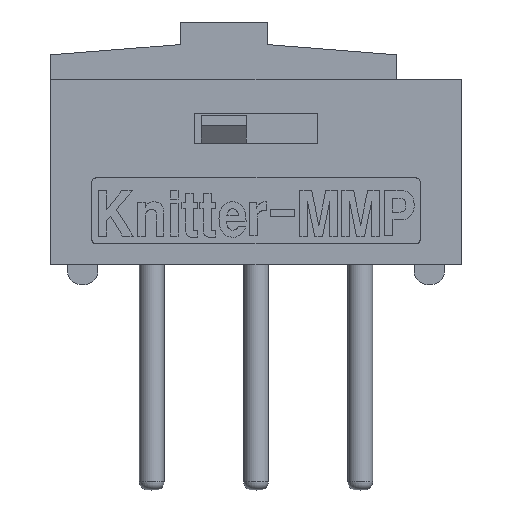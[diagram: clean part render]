
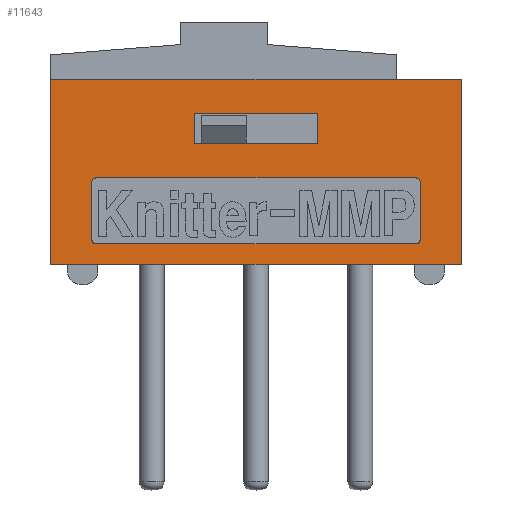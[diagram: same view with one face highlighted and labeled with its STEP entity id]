
A CAD part, top view. The second image highlights one B-rep face of the part: STEP entity #11643.
In plain terms, the highlighted planar face has unit normal (0, 0, 1).
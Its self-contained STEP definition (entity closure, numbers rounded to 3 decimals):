
#110 = VERTEX_POINT ( 'NONE', #12328 ) ;
#286 = CARTESIAN_POINT ( 'NONE',  ( -1.5, 3.68, 1.25 ) ) ;
#443 = AXIS2_PLACEMENT_3D ( 'NONE', #8222, #2272, #9208 ) ;
#454 = DIRECTION ( 'NONE',  ( 1., 0., 0. ) ) ;
#462 = LINE ( 'NONE', #12408, #8075 ) ;
#630 = CARTESIAN_POINT ( 'NONE',  ( -1.5, 2.93, 1.25 ) ) ;
#826 = VECTOR ( 'NONE', #1278, 1000. ) ;
#910 = LINE ( 'NONE', #5317, #5273 ) ;
#943 = CARTESIAN_POINT ( 'NONE',  ( -5., 4.5, 1.25 ) ) ;
#1054 = CARTESIAN_POINT ( 'NONE',  ( -5., 4.5, 1.25 ) ) ;
#1198 = EDGE_CURVE ( 'NONE', #11555, #3470, #7189, .T. ) ;
#1245 = CIRCLE ( 'NONE', #11269, 0.1 ) ;
#1278 = DIRECTION ( 'NONE',  ( -1., 0., 0. ) ) ;
#1325 = VECTOR ( 'NONE', #11014, 1000. ) ;
#1406 = CIRCLE ( 'NONE', #443, 0.1 ) ;
#1530 = ORIENTED_EDGE ( 'NONE', *, *, #5823, .T. ) ;
#1593 = ORIENTED_EDGE ( 'NONE', *, *, #11334, .T. ) ;
#1621 = VERTEX_POINT ( 'NONE', #6834 ) ;
#1716 = ORIENTED_EDGE ( 'NONE', *, *, #9890, .T. ) ;
#1921 = EDGE_CURVE ( 'NONE', #6047, #5854, #3950, .T. ) ;
#1954 = DIRECTION ( 'NONE',  ( 0., -1., 0. ) ) ;
#2049 = DIRECTION ( 'NONE',  ( -1., 0., 0. ) ) ;
#2101 = DIRECTION ( 'NONE',  ( 0., -1., 0. ) ) ;
#2272 = DIRECTION ( 'NONE',  ( 0., 0., -1. ) ) ;
#2291 = CARTESIAN_POINT ( 'NONE',  ( -1.5, 2.93, 1.25 ) ) ;
#2324 = VECTOR ( 'NONE', #7871, 1000. ) ;
#2461 = CARTESIAN_POINT ( 'NONE',  ( -4., 0., 1.25 ) ) ;
#2933 = CARTESIAN_POINT ( 'NONE',  ( 4., 0.6, 1.25 ) ) ;
#3046 = CARTESIAN_POINT ( 'NONE',  ( 5., 4.5, 1.25 ) ) ;
#3079 = CARTESIAN_POINT ( 'NONE',  ( 5., 4.5, 1.25 ) ) ;
#3143 = EDGE_CURVE ( 'NONE', #1621, #5856, #1245, .T. ) ;
#3148 = CARTESIAN_POINT ( 'NONE',  ( -5., 0., 1.25 ) ) ;
#3167 = CARTESIAN_POINT ( 'NONE',  ( 3.9, 2., 1.25 ) ) ;
#3218 = CARTESIAN_POINT ( 'NONE',  ( 3.9, 0.5, 1.25 ) ) ;
#3470 = VERTEX_POINT ( 'NONE', #2933 ) ;
#3499 = VECTOR ( 'NONE', #9403, 1000. ) ;
#3619 = ORIENTED_EDGE ( 'NONE', *, *, #10004, .T. ) ;
#3881 = ORIENTED_EDGE ( 'NONE', *, *, #8595, .T. ) ;
#3891 = CARTESIAN_POINT ( 'NONE',  ( -5., 4.5, 1.25 ) ) ;
#3930 = CARTESIAN_POINT ( 'NONE',  ( -4.25, -0.15, 1.25 ) ) ;
#3950 = LINE ( 'NONE', #630, #8606 ) ;
#3962 = VERTEX_POINT ( 'NONE', #3218 ) ;
#4129 = DIRECTION ( 'NONE',  ( 0., 0., -1. ) ) ;
#4157 = DIRECTION ( 'NONE',  ( 1., 0., 0. ) ) ;
#4356 = DIRECTION ( 'NONE',  ( 0., 0., -1. ) ) ;
#4401 = ORIENTED_EDGE ( 'NONE', *, *, #3143, .T. ) ;
#4531 = CARTESIAN_POINT ( 'NONE',  ( 5., 0., 1.25 ) ) ;
#4556 = VECTOR ( 'NONE', #2101, 1000. ) ;
#4755 = VERTEX_POINT ( 'NONE', #4531 ) ;
#4923 = LINE ( 'NONE', #943, #7231 ) ;
#4933 = PLANE ( 'NONE',  #6428 ) ;
#5032 = ORIENTED_EDGE ( 'NONE', *, *, #5917, .T. ) ;
#5039 = CARTESIAN_POINT ( 'NONE',  ( -3.9, 2.1, 1.25 ) ) ;
#5273 = VECTOR ( 'NONE', #11291, 1000. ) ;
#5317 = CARTESIAN_POINT ( 'NONE',  ( -1.5, 3.68, 1.25 ) ) ;
#5544 = LINE ( 'NONE', #7048, #8492 ) ;
#5586 = CARTESIAN_POINT ( 'NONE',  ( -3.9, 0.5, 1.25 ) ) ;
#5588 = DIRECTION ( 'NONE',  ( 1., 0., 0. ) ) ;
#5616 = VECTOR ( 'NONE', #2049, 1000. ) ;
#5823 = EDGE_CURVE ( 'NONE', #6599, #9503, #4923, .T. ) ;
#5854 = VERTEX_POINT ( 'NONE', #11013 ) ;
#5856 = VERTEX_POINT ( 'NONE', #5039 ) ;
#5917 = EDGE_CURVE ( 'NONE', #6242, #11555, #8319, .T. ) ;
#6047 = VERTEX_POINT ( 'NONE', #2291 ) ;
#6091 = ORIENTED_EDGE ( 'NONE', *, *, #9341, .F. ) ;
#6242 = VERTEX_POINT ( 'NONE', #8493 ) ;
#6428 = AXIS2_PLACEMENT_3D ( 'NONE', #3930, #12930, #6920 ) ;
#6457 = ORIENTED_EDGE ( 'NONE', *, *, #8005, .F. ) ;
#6599 = VERTEX_POINT ( 'NONE', #3891 ) ;
#6616 = LINE ( 'NONE', #3046, #1325 ) ;
#6781 = EDGE_LOOP ( 'NONE', ( #3619, #3881, #1716, #1530 ) ) ;
#6834 = CARTESIAN_POINT ( 'NONE',  ( -4., 2., 1.25 ) ) ;
#6839 = CARTESIAN_POINT ( 'NONE',  ( 4., 0., 1.25 ) ) ;
#6920 = DIRECTION ( 'NONE',  ( 1., 0., 0. ) ) ;
#7048 = CARTESIAN_POINT ( 'NONE',  ( 0., 0.5, 1.25 ) ) ;
#7189 = LINE ( 'NONE', #6839, #4556 ) ;
#7231 = VECTOR ( 'NONE', #1954, 1000. ) ;
#7258 = EDGE_CURVE ( 'NONE', #8213, #11972, #8035, .T. ) ;
#7401 = ORIENTED_EDGE ( 'NONE', *, *, #8847, .F. ) ;
#7589 = ORIENTED_EDGE ( 'NONE', *, *, #1198, .T. ) ;
#7598 = LINE ( 'NONE', #11876, #2324 ) ;
#7666 = AXIS2_PLACEMENT_3D ( 'NONE', #3167, #10123, #4157 ) ;
#7871 = DIRECTION ( 'NONE',  ( 0., 1., 0. ) ) ;
#8005 = EDGE_CURVE ( 'NONE', #8213, #3962, #5544, .T. ) ;
#8035 = CIRCLE ( 'NONE', #9994, 0.1 ) ;
#8075 = VECTOR ( 'NONE', #454, 1000. ) ;
#8086 = DIRECTION ( 'NONE',  ( 1., 0., 0. ) ) ;
#8213 = VERTEX_POINT ( 'NONE', #5586 ) ;
#8222 = CARTESIAN_POINT ( 'NONE',  ( 3.9, 0.6, 1.25 ) ) ;
#8257 = LINE ( 'NONE', #1054, #5616 ) ;
#8319 = CIRCLE ( 'NONE', #7666, 0.1 ) ;
#8401 = ORIENTED_EDGE ( 'NONE', *, *, #7258, .T. ) ;
#8492 = VECTOR ( 'NONE', #9046, 1000. ) ;
#8493 = CARTESIAN_POINT ( 'NONE',  ( 3.9, 2.1, 1.25 ) ) ;
#8526 = CARTESIAN_POINT ( 'NONE',  ( -5., 0., 1.25 ) ) ;
#8595 = EDGE_CURVE ( 'NONE', #4755, #11137, #6616, .T. ) ;
#8606 = VECTOR ( 'NONE', #5588, 1000. ) ;
#8626 = EDGE_LOOP ( 'NONE', ( #11256, #11805, #6091, #9956 ) ) ;
#8783 = LINE ( 'NONE', #2461, #3499 ) ;
#8847 = EDGE_CURVE ( 'NONE', #1621, #11972, #8783, .T. ) ;
#9046 = DIRECTION ( 'NONE',  ( 1., 0., 0. ) ) ;
#9208 = DIRECTION ( 'NONE',  ( 1., 0., 0. ) ) ;
#9271 = VERTEX_POINT ( 'NONE', #10064 ) ;
#9341 = EDGE_CURVE ( 'NONE', #110, #9271, #11130, .T. ) ;
#9403 = DIRECTION ( 'NONE',  ( 0., -1., 0. ) ) ;
#9503 = VERTEX_POINT ( 'NONE', #8526 ) ;
#9508 = CARTESIAN_POINT ( 'NONE',  ( -4., 0.6, 1.25 ) ) ;
#9631 = FACE_OUTER_BOUND ( 'NONE', #6781, .T. ) ;
#9890 = EDGE_CURVE ( 'NONE', #11137, #6599, #8257, .T. ) ;
#9948 = FACE_BOUND ( 'NONE', #12656, .T. ) ;
#9956 = ORIENTED_EDGE ( 'NONE', *, *, #11617, .F. ) ;
#9966 = LINE ( 'NONE', #3148, #12031 ) ;
#9994 = AXIS2_PLACEMENT_3D ( 'NONE', #10090, #4129, #11110 ) ;
#10004 = EDGE_CURVE ( 'NONE', #9503, #4755, #9966, .T. ) ;
#10038 = EDGE_CURVE ( 'NONE', #3470, #3962, #1406, .T. ) ;
#10064 = CARTESIAN_POINT ( 'NONE',  ( -1.5, 3.68, 1.25 ) ) ;
#10090 = CARTESIAN_POINT ( 'NONE',  ( -3.9, 0.6, 1.25 ) ) ;
#10123 = DIRECTION ( 'NONE',  ( 0., 0., -1. ) ) ;
#10322 = CARTESIAN_POINT ( 'NONE',  ( -3.9, 2., 1.25 ) ) ;
#11013 = CARTESIAN_POINT ( 'NONE',  ( 1.5, 2.93, 1.25 ) ) ;
#11014 = DIRECTION ( 'NONE',  ( 0., 1., 0. ) ) ;
#11110 = DIRECTION ( 'NONE',  ( 1., 0., 0. ) ) ;
#11130 = LINE ( 'NONE', #286, #826 ) ;
#11137 = VERTEX_POINT ( 'NONE', #3079 ) ;
#11256 = ORIENTED_EDGE ( 'NONE', *, *, #1921, .F. ) ;
#11269 = AXIS2_PLACEMENT_3D ( 'NONE', #10322, #4356, #11351 ) ;
#11291 = DIRECTION ( 'NONE',  ( 0., -1., 0. ) ) ;
#11334 = EDGE_CURVE ( 'NONE', #5856, #6242, #462, .T. ) ;
#11351 = DIRECTION ( 'NONE',  ( 1., 0., 0. ) ) ;
#11555 = VERTEX_POINT ( 'NONE', #12745 ) ;
#11617 = EDGE_CURVE ( 'NONE', #5854, #110, #7598, .T. ) ;
#11643 = ADVANCED_FACE ( 'NONE', ( #9631, #12322, #9948 ), #4933, .T. ) ;
#11805 = ORIENTED_EDGE ( 'NONE', *, *, #12132, .F. ) ;
#11876 = CARTESIAN_POINT ( 'NONE',  ( 1.5, 3.68, 1.25 ) ) ;
#11972 = VERTEX_POINT ( 'NONE', #9508 ) ;
#12031 = VECTOR ( 'NONE', #8086, 1000. ) ;
#12132 = EDGE_CURVE ( 'NONE', #9271, #6047, #910, .T. ) ;
#12322 = FACE_BOUND ( 'NONE', #8626, .T. ) ;
#12328 = CARTESIAN_POINT ( 'NONE',  ( 1.5, 3.68, 1.25 ) ) ;
#12408 = CARTESIAN_POINT ( 'NONE',  ( 0., 2.1, 1.25 ) ) ;
#12656 = EDGE_LOOP ( 'NONE', ( #7401, #4401, #1593, #5032, #7589, #12674, #6457, #8401 ) ) ;
#12674 = ORIENTED_EDGE ( 'NONE', *, *, #10038, .T. ) ;
#12745 = CARTESIAN_POINT ( 'NONE',  ( 4., 2., 1.25 ) ) ;
#12930 = DIRECTION ( 'NONE',  ( 0., 0., 1. ) ) ;
